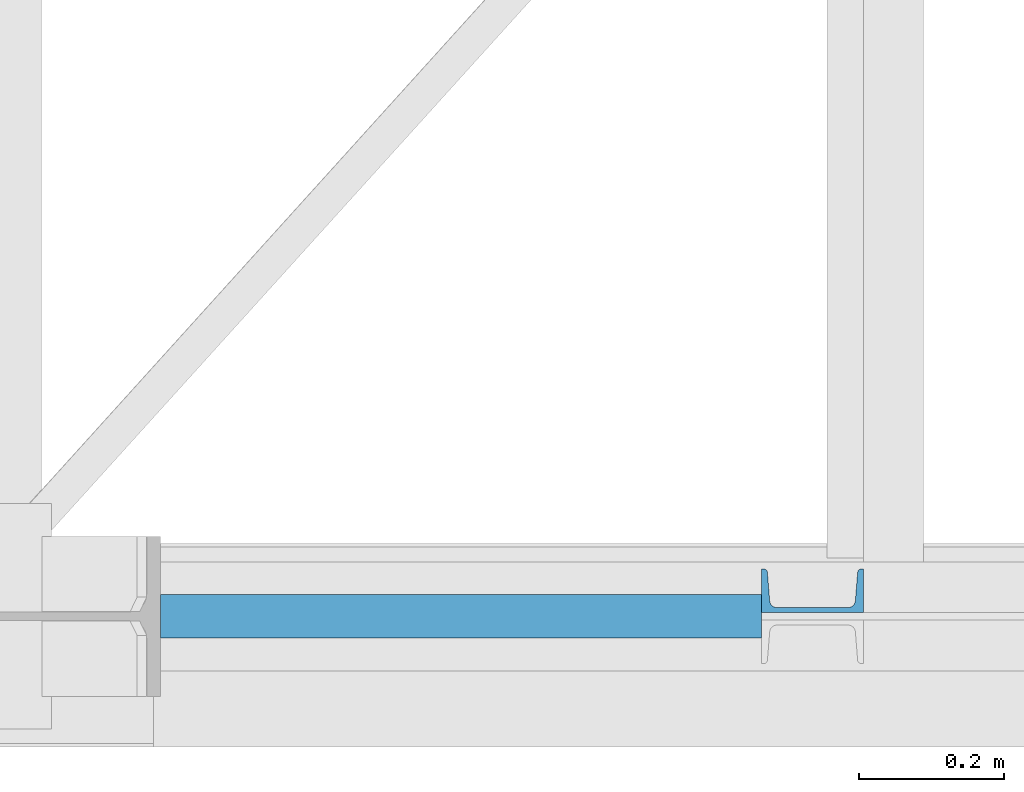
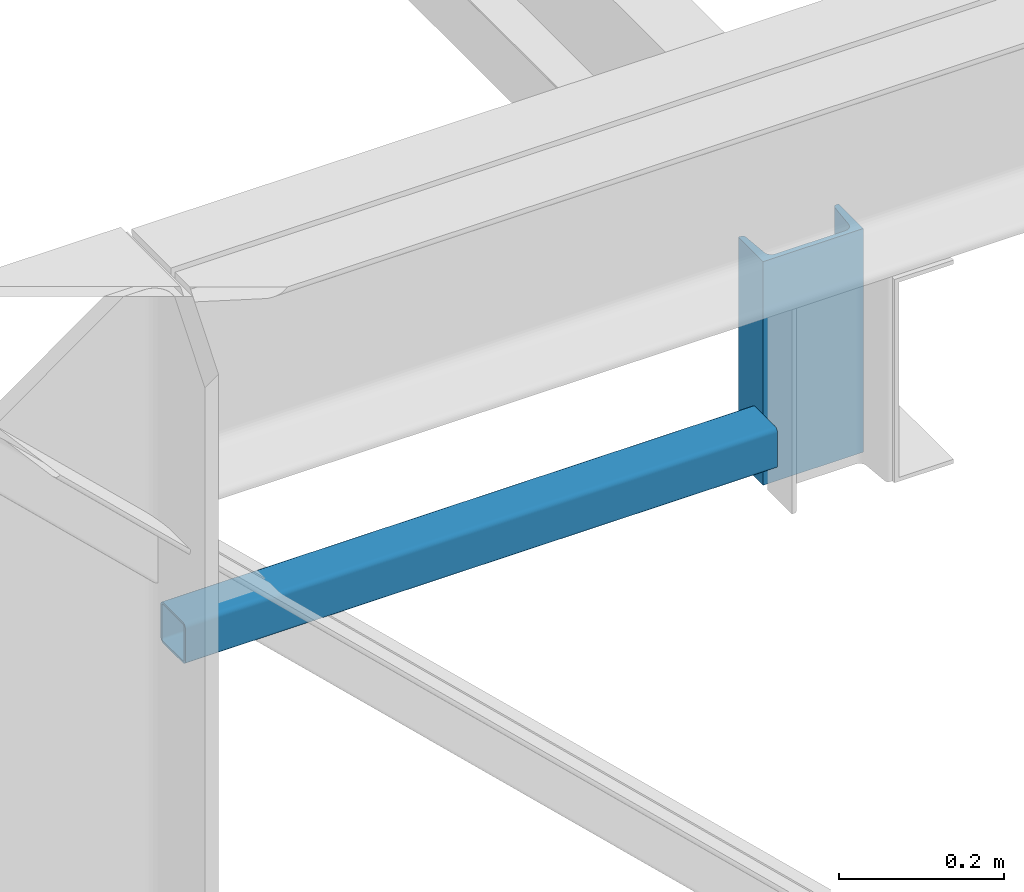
# One storey, part 42 of 123: 2 beams, 2 elements without a shape of their own.
"""IFC2X3 building model written with IfcOpenShell, lengths in millimetres."""

from ifc_helpers import new_model, si_unit, frame, origin_with_axes, origin_2d_with_axis, place, context, subcontext, project, spatial, hollow_rectangle, u_section, extrude, material, type_object, element, aggregate, save


model = new_model("IFC2X3")

# Units and contexts
model_context = context("Model", 3, precision=1e-05, world=origin_with_axes())
body_context = subcontext(model_context, "Body", "Model", "MODEL_VIEW")
ifc_project = project(units=[si_unit("LENGTHUNIT", "METRE", prefix="MILLI"), si_unit("AREAUNIT", "SQUARE_METRE"), si_unit("VOLUMEUNIT", "CUBIC_METRE"), si_unit("MASSUNIT", "GRAM", prefix="KILO"), si_unit("TIMEUNIT", "SECOND"), si_unit("PLANEANGLEUNIT", "RADIAN"), si_unit("SOLIDANGLEUNIT", "STERADIAN"), si_unit("THERMODYNAMICTEMPERATUREUNIT", "DEGREE_CELSIUS"), si_unit("LUMINOUSINTENSITYUNIT", "LUMEN")], contexts=[model_context])

# Site, building, storey
site_placement = place(None, origin_with_axes())
site = spatial("IfcSite", under=ifc_project, at=site_placement, Name="Undefined", CompositionType="ELEMENT")
building_placement = place(site_placement, origin_with_axes())
building = spatial("IfcBuilding", under=site, at=building_placement, Name="Undefined", CompositionType="ELEMENT")
storey_placement = place(building_placement, origin_with_axes())
storey = spatial("IfcBuildingStorey", under=building, at=storey_placement, Name="Undefined", CompositionType="ELEMENT", Elevation=0.0)

# Assembly, beam
assembly_1_placement = place(storey_placement, origin_with_axes())
assembly_1 = element("IfcElementAssembly", 1, at=assembly_1_placement, inside=storey, Name="Steel Assembly", AssemblyPlace="NOTDEFINED", PredefinedType="RIGID_FRAME")
ifc_material_1 = material(Name="STEEL/S275-E28")
beam_type_1 = type_object("IfcBeamType", Name="UPN140", PredefinedType="NOTDEFINED")
beam_1_placement = place(assembly_1_placement, frame((13876.4998855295, 35.0, 8269.99444626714), z_axis=(-1.0, 0.0, 0.0), x_axis=(0.0, 0.0, -1.0)))
beam_1 = element("IfcBeam", 2, at=beam_1_placement, type_object=beam_type_1, material=ifc_material_1, Name="MONTANT", ObjectType="UPN140", context=body_context, shape_type="SweptSolid", body=[
    extrude(u_section(Depth=140.0, FlangeWidth=60.0, WebThickness=7.0, FlangeThickness=10.0, FilletRadius=10.0, EdgeRadius=5.0, FlangeSlope=0.0798299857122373, at=origin_2d_with_axis()), frame((329.994446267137, 0.0, 0.0), z_axis=(-1.0, 0.0, 0.0), x_axis=(0.0, -1.0, 0.0)), (0.0, 0.0, 1.0), 330.0),
])
aggregate(assembly_1, [beam_1])

assembly_2_placement = place(storey_placement, origin_with_axes())
assembly_2 = element("IfcElementAssembly", 3, at=assembly_2_placement, inside=storey, Name="Steel Assembly", AssemblyPlace="NOTDEFINED", PredefinedType="RIGID_FRAME")
ifc_material_2 = material(Name="STEEL/S235-E24")
beam_type_2 = type_object("IfcBeamType", Name="TUBE-C-60*60*3", PredefinedType="NOTDEFINED")
beam_2_placement = place(assembly_2_placement, frame((12980.0, 0.0, 8015.0), z_axis=(0.0, -1.0, 0.0), x_axis=(1.0, 0.0, 0.0)))
beam_2 = element("IfcBeam", 4, at=beam_2_placement, type_object=beam_type_2, material=ifc_material_2, Name="SOLIVE", ObjectType="TUBE-C-60*60*3", context=body_context, shape_type="SweptSolid", body=[
    extrude(hollow_rectangle(XDim=60.0, YDim=60.0, WallThickness=3.0, InnerFilletRadius=3.0, OuterFilletRadius=6.0, at=origin_2d_with_axis()), frame((826.499885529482, 0.0, 0.0), z_axis=(-1.0, 0.0, 0.0), x_axis=(0.0, -1.0, 0.0)), (0.0, 0.0, 1.0), 826.5),
])
aggregate(assembly_2, [beam_2])

save(model, "model.ifc")
